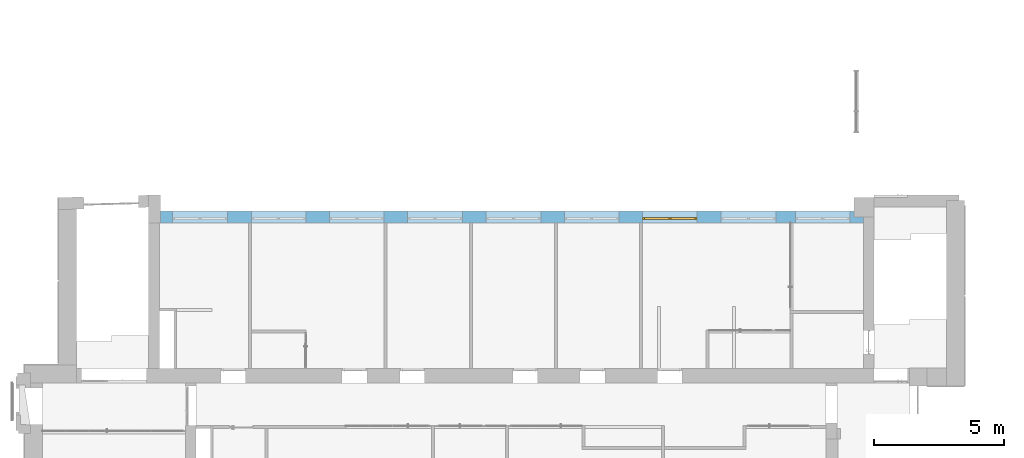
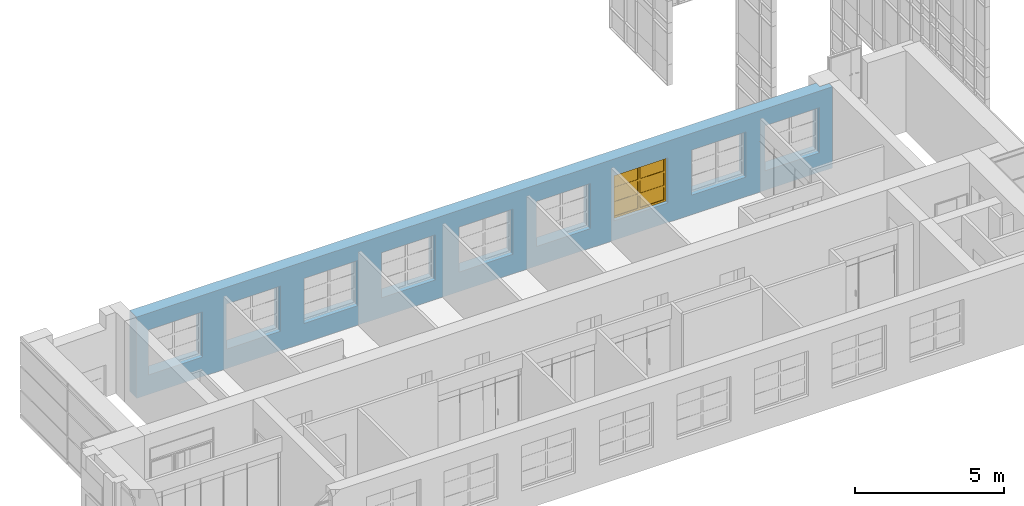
# One storey, part 65 of 73: 1 window, 9 openings, plus 1 element that does not belong to this part.
"""IFC2X3 building model written with IfcOpenShell, lengths in millimetres."""

from ifc_helpers import new_model, entity, si_unit, converted_unit, derived_unit, direction, frame, frame_2d, origin, origin_2d_with_axis, place, context, subcontext, project, spatial, polyline, rectangle, outline, extrude, face_set, surface_model, source, transform, mapped, material, material_list, layer, layer_set, layer_usage, type_object, type_shapes, element, fill, save


model = new_model("IFC2X3")

# Units and contexts
model_context = context("Model", 3, precision=0.01, world=origin(), true_north=direction((6.12303176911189e-17, 1.0)))
body_context = subcontext(model_context, "Body", "Model", "MODEL_VIEW")
ifc_project = project(units=[si_unit("LENGTHUNIT", "METRE", prefix="MILLI"), si_unit("AREAUNIT", "SQUARE_METRE"), si_unit("VOLUMEUNIT", "CUBIC_METRE"), converted_unit("PLANEANGLEUNIT", "DEGREE", entity("IfcRatioMeasure", 0.0174532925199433), si_unit("PLANEANGLEUNIT", "RADIAN"), dimensions=[0, 0, 0, 0, 0, 0, 0]), si_unit("MASSUNIT", "GRAM", prefix="KILO"), derived_unit("MASSDENSITYUNIT", [(si_unit("MASSUNIT", "GRAM", prefix="KILO"), 1), (si_unit("LENGTHUNIT", "METRE"), -3)]), si_unit("TIMEUNIT", "SECOND"), si_unit("FREQUENCYUNIT", "HERTZ"), si_unit("THERMODYNAMICTEMPERATUREUNIT", "DEGREE_CELSIUS"), derived_unit("THERMALTRANSMITTANCEUNIT", [(si_unit("MASSUNIT", "GRAM", prefix="KILO"), 1), (si_unit("THERMODYNAMICTEMPERATUREUNIT", "KELVIN"), -1), (si_unit("TIMEUNIT", "SECOND"), -3)]), derived_unit("VOLUMETRICFLOWRATEUNIT", [(si_unit("LENGTHUNIT", "METRE"), 3), (si_unit("TIMEUNIT", "SECOND"), -1)]), si_unit("ELECTRICCURRENTUNIT", "AMPERE"), si_unit("ELECTRICVOLTAGEUNIT", "VOLT"), si_unit("POWERUNIT", "WATT"), si_unit("FORCEUNIT", "NEWTON", prefix="KILO"), si_unit("ILLUMINANCEUNIT", "LUX"), si_unit("LUMINOUSFLUXUNIT", "LUMEN"), si_unit("LUMINOUSINTENSITYUNIT", "CANDELA"), derived_unit("USERDEFINED", [(si_unit("MASSUNIT", "GRAM", prefix="KILO"), -1), (si_unit("LENGTHUNIT", "METRE"), -2), (si_unit("TIMEUNIT", "SECOND"), 3), (si_unit("LUMINOUSFLUXUNIT", "LUMEN"), 1)]), derived_unit("LINEARVELOCITYUNIT", [(si_unit("LENGTHUNIT", "METRE"), 1), (si_unit("TIMEUNIT", "SECOND"), -1)]), si_unit("PRESSUREUNIT", "PASCAL"), derived_unit("USERDEFINED", [(si_unit("LENGTHUNIT", "METRE"), -2), (si_unit("MASSUNIT", "GRAM", prefix="KILO"), 1), (si_unit("TIMEUNIT", "SECOND"), -2)])], contexts=[model_context])

# Site, building, storey
site_placement = place(None, frame((-151.875543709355, 2715.0, 0.0)))
site = spatial("IfcSite", under=ifc_project, at=site_placement, Name="Surface", CompositionType="ELEMENT")
building_placement = place(site_placement, origin())
building = spatial("IfcBuilding", under=site, at=building_placement, CompositionType="ELEMENT")
storey_placement = place(building_placement, frame((0.0, 0.0, 6730.43000000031)))
storey = spatial("IfcBuildingStorey", under=building, at=storey_placement, Name="3 korrus", CompositionType="ELEMENT", Elevation=6730.43000000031)

# Wall, openings, window
ifc_material_1 = material(Name="Brick, Common")
ifc_layer_1 = layer(ifc_material_1, 440.0)
ifc_material_2 = material(Name="__Kips GN13_tava")
ifc_layer_2 = layer(ifc_material_2, 20.0)
ifc_layer_set = layer_set([ifc_layer_1, ifc_layer_2], Name="Basic Wall:VS-1")
ifc_layer_usage = layer_usage(ifc_layer_set, "AXIS2", "POSITIVE", -230.0)
wall_type = type_object("IfcWallType", Name="Basic Wall:VS-1", PredefinedType="STANDARD", material=ifc_layer_set)
wall_placement = place(storey_placement, frame((31972.6162682, 12380.0, 0.00203353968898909), z_axis=(0.0, 0.0, 1.0), x_axis=(-1.0, 0.0, 0.0)))
wall = element("IfcWallStandardCase", 1, at=wall_placement, inside=storey, type_object=wall_type, material=ifc_layer_usage, Name="SEIN - 005", ObjectType="Basic Wall:VS-1", context=body_context, shape_type="SweptSolid", body=[
    extrude(outline(polyline([(26972.5418693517, -230.0), (26972.5418693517, 230.0), (0.0, 230.0), (0.0, 0.0), (370.0, 0.0), (370.0, -230.0), (26972.5418693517, -230.0)])), origin(), (0.0, 0.0, 1.0), 3329.56796646),
])
opening_1_placement = place(wall_placement, frame((31972.6162682, 12380.0, -0.00203353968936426), z_axis=(0.0, 0.0, 1.0), x_axis=(-1.0, 0.0, 0.0)))
element("IfcOpeningElement", 2, at=opening_1_placement, cuts=wall, Name="SEIN - 005", ObjectType="Opening", context=body_context, shape_type="SweptSolid", body=[
    extrude(rectangle(XDim=1850.0, YDim=2100.0, at=frame_2d((0.0, -5.6843418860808e-13), x_axis=(1.0, 0.0))), frame((6512.84934801, 13077.9, 1725.00203353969), z_axis=(0.0, -1.0, 0.0), x_axis=(0.0, 0.0, 1.0)), (0.0, 0.0, 1.0), 1393.8),
])
opening_2_placement = place(wall_placement, frame((31972.6162682, 12380.0, -0.00203353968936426), z_axis=(0.0, 0.0, 1.0), x_axis=(-1.0, 0.0, 0.0)))
element("IfcOpeningElement", 3, at=opening_2_placement, cuts=wall, Name="SEIN - 005", ObjectType="Opening", context=body_context, shape_type="SweptSolid", body=[
    extrude(rectangle(XDim=1850.0, YDim=2100.0, at=origin_2d_with_axis()), frame((9532.84934801, 13077.9, 1725.00203353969), z_axis=(0.0, -1.0, 0.0), x_axis=(0.0, 0.0, 1.0)), (0.0, 0.0, 1.0), 1393.8),
])
opening_3_placement = place(wall_placement, frame((31972.6162682, 12380.0, -0.00203353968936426), z_axis=(0.0, 0.0, 1.0), x_axis=(-1.0, 0.0, 0.0)))
element("IfcOpeningElement", 4, at=opening_3_placement, cuts=wall, Name="SEIN - 005", ObjectType="Opening", context=body_context, shape_type="SweptSolid", body=[
    extrude(rectangle(XDim=1850.0, YDim=2100.0, at=frame_2d((0.0, -1.02318153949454e-12), x_axis=(1.0, 0.0))), frame((12532.84934801, 13077.9, 1725.00203353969), z_axis=(0.0, -1.0, 0.0), x_axis=(0.0, 0.0, 1.0)), (0.0, 0.0, 1.0), 1393.8),
])
opening_4_placement = place(wall_placement, frame((31972.6162682, 12380.0, -0.00203353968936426), z_axis=(0.0, 0.0, 1.0), x_axis=(-1.0, 0.0, 0.0)))
element("IfcOpeningElement", 5, at=opening_4_placement, cuts=wall, Name="SEIN - 005", ObjectType="Opening", context=body_context, shape_type="SweptSolid", body=[
    extrude(rectangle(XDim=1850.0, YDim=2100.0, at=origin_2d_with_axis()), frame((15532.849348, 13077.9, 1725.00203353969), z_axis=(0.0, -1.0, 0.0), x_axis=(0.0, 0.0, 1.0)), (0.0, 0.0, 1.0), 1393.8),
])
opening_5_placement = place(wall_placement, frame((31972.6162682, 12380.0, -0.00203353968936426), z_axis=(0.0, 0.0, 1.0), x_axis=(-1.0, 0.0, 0.0)))
element("IfcOpeningElement", 6, at=opening_5_placement, cuts=wall, Name="SEIN - 005", ObjectType="Opening", context=body_context, shape_type="SweptSolid", body=[
    extrude(rectangle(XDim=1850.0, YDim=2100.0, at=origin_2d_with_axis()), frame((18542.849348, 13077.9, 1725.00203353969), z_axis=(0.0, -1.0, 0.0), x_axis=(0.0, 0.0, 1.0)), (0.0, 0.0, 1.0), 1393.8),
])
opening_6_placement = place(wall_placement, frame((31972.6162682, 12380.0, -0.00203353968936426), z_axis=(0.0, 0.0, 1.0), x_axis=(-1.0, 0.0, 0.0)))
element("IfcOpeningElement", 7, at=opening_6_placement, cuts=wall, Name="SEIN - 005", ObjectType="Opening", context=body_context, shape_type="SweptSolid", body=[
    extrude(rectangle(XDim=1850.0, YDim=2100.0, at=origin_2d_with_axis()), frame((21543.0530903, 13077.9, 1725.00203353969), z_axis=(0.0, -1.0, 0.0), x_axis=(0.0, 0.0, 1.0)), (0.0, 0.0, 1.0), 1393.8),
])
opening_7_placement = place(wall_placement, frame((31972.6162682, 12380.0, -0.00203353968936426), z_axis=(0.0, 0.0, 1.0), x_axis=(-1.0, 0.0, 0.0)))
opening_7 = element("IfcOpeningElement", 8, at=opening_7_placement, cuts=wall, Name="SEIN - 005", ObjectType="Opening", context=body_context, shape_type="SweptSolid", body=[
    extrude(rectangle(XDim=1850.0, YDim=2100.0, at=origin_2d_with_axis()), frame((24543.0530903, 13077.9, 1725.00203353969), z_axis=(0.0, -1.0, 0.0), x_axis=(0.0, 0.0, 1.0)), (0.0, 0.0, 1.0), 1393.8),
])
opening_8_placement = place(wall_placement, frame((31972.6162682, 12380.0, -0.00203353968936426), z_axis=(0.0, 0.0, 1.0), x_axis=(-1.0, 0.0, 0.0)))
element("IfcOpeningElement", 9, at=opening_8_placement, cuts=wall, Name="SEIN - 005", ObjectType="Opening", context=body_context, shape_type="SweptSolid", body=[
    extrude(rectangle(XDim=1850.0, YDim=2100.0, at=origin_2d_with_axis()), frame((27563.0530903, 13077.9, 1725.00203353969), z_axis=(0.0, -1.0, 0.0), x_axis=(0.0, 0.0, 1.0)), (0.0, 0.0, 1.0), 1393.8),
])
opening_9_placement = place(wall_placement, frame((31972.6162682, 12380.0, -0.00203353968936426), z_axis=(0.0, 0.0, 1.0), x_axis=(-1.0, 0.0, 0.0)))
element("IfcOpeningElement", 10, at=opening_9_placement, cuts=wall, Name="SEIN - 005", ObjectType="Opening", context=body_context, shape_type="SweptSolid", body=[
    extrude(rectangle(XDim=1850.0, YDim=2100.0, at=origin_2d_with_axis()), frame((30412.5729235, 13077.9, 1725.00203353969), z_axis=(0.0, -1.0, 0.0), x_axis=(0.0, 0.0, 1.0)), (0.0, 0.0, 1.0), 1393.8),
])
ifc_material_3 = material(Name="Paint - Titanium White")
ifc_material_4 = material(Name="Paint - Dark Gray")
ifc_material_5 = material(Name="Glass - Clear Fast")
ifc_material_list_1 = material_list([ifc_material_3, ifc_material_4, ifc_material_5])
ifc_material_list_2 = material_list([ifc_material_3, ifc_material_4, ifc_material_5])
window_style = type_object("IfcWindowStyle", Name="Aken_1850x2100", ConstructionType="NOTDEFINED", OperationType="DOUBLE_PANEL_VERTICAL", ParameterTakesPrecedence=False, Sizeable=False, material=ifc_material_list_2)
shared_shape = source(origin(), body_context, "Body", "SurfaceModel", [
    surface_model("IfcFaceBasedSurfaceModel", [(80.0, -665.9, 1770.0), (80.0, -620.9, 1770.0), (0.0, -620.9, 1770.0), (0.0, -665.9, 1770.0), (80.0, -665.9, 80.0), (80.0, -620.9, 80.0), (80.0, -620.9, 1770.0), (80.0, -665.9, 1770.0), (80.0, -620.9, 1770.0), (80.0, -620.9, 80.0), (0.0, -620.9, 80.0), (0.0, -620.9, 1770.0), (0.0, -665.9, 1770.0), (0.0, -620.9, 1770.0), (0.0, -620.9, 80.0), (0.0, -665.9, 80.0), (80.0, -665.9, 1770.0), (0.0, -665.9, 1770.0), (0.0, -665.9, 80.0), (80.0, -665.9, 80.0), (0.0, -665.9, 80.0), (0.0, -620.9, 80.0), (80.0, -620.9, 80.0), (80.0, -665.9, 80.0), (2020.0, -665.9, 80.0), (2020.0, -620.9, 80.0), (2100.0, -620.9, 80.0), (2100.0, -665.9, 80.0), (2020.0, -665.9, 1770.0), (2020.0, -620.9, 1770.0), (2020.0, -620.9, 80.0), (2020.0, -665.9, 80.0), (2020.0, -620.9, 80.0), (2020.0, -620.9, 1770.0), (2100.0, -620.9, 1770.0), (2100.0, -620.9, 80.0), (2100.0, -665.9, 80.0), (2100.0, -620.9, 80.0), (2100.0, -620.9, 1770.0), (2100.0, -665.9, 1770.0), (2020.0, -665.9, 80.0), (2100.0, -665.9, 80.0), (2100.0, -665.9, 1770.0), (2020.0, -665.9, 1770.0), (2100.0, -665.9, 1770.0), (2100.0, -620.9, 1770.0), (2020.0, -620.9, 1770.0), (2020.0, -665.9, 1770.0), (1010.0, -665.9, 80.0), (1010.0, -620.9, 80.0), (1090.0, -620.9, 80.0), (1090.0, -665.9, 80.0), (1010.0, -665.9, 1770.0), (1010.0, -620.9, 1770.0), (1010.0, -620.9, 80.0), (1010.0, -665.9, 80.0), (1010.0, -620.9, 80.0), (1010.0, -620.9, 1770.0), (1090.0, -620.9, 1770.0), (1090.0, -620.9, 80.0), (1090.0, -665.9, 80.0), (1090.0, -620.9, 80.0), (1090.0, -620.9, 1770.0), (1090.0, -665.9, 1770.0), (1010.0, -665.9, 80.0), (1090.0, -665.9, 80.0), (1090.0, -665.9, 1770.0), (1010.0, -665.9, 1770.0), (1090.0, -665.9, 1770.0), (1090.0, -620.9, 1770.0), (1010.0, -620.9, 1770.0), (1010.0, -665.9, 1770.0), (80.0, -665.9, 80.0), (80.0, -620.9, 80.0), (0.0, -620.9, 80.0), (0.0, -665.9, 80.0), (1010.0, -665.9, 80.0), (1010.0, -620.9, 80.0), (80.0, -620.9, 80.0), (80.0, -665.9, 80.0), (80.0, -620.9, 80.0), (1010.0, -620.9, 80.0), (1090.0, -620.9, 80.0), (2020.0, -620.9, 80.0), (2100.0, -620.9, 80.0), (2100.0, -620.9, 0.0), (0.0, -620.9, 0.0), (0.0, -620.9, 80.0), (0.0, -665.9, 80.0), (0.0, -620.9, 80.0), (0.0, -620.9, 0.0), (0.0, -665.9, 0.0), (80.0, -665.9, 80.0), (0.0, -665.9, 80.0), (0.0, -665.9, 0.0), (2100.0, -665.9, 0.0), (2100.0, -665.9, 80.0), (2020.0, -665.9, 80.0), (1090.0, -665.9, 80.0), (1010.0, -665.9, 80.0), (1090.0, -665.9, 80.0), (1090.0, -620.9, 80.0), (1010.0, -620.9, 80.0), (1010.0, -665.9, 80.0), (2020.0, -665.9, 80.0), (2020.0, -620.9, 80.0), (1090.0, -620.9, 80.0), (1090.0, -665.9, 80.0), (2100.0, -665.9, 80.0), (2100.0, -620.9, 80.0), (2020.0, -620.9, 80.0), (2020.0, -665.9, 80.0), (2100.0, -665.9, 0.0), (2100.0, -620.9, 0.0), (2100.0, -620.9, 80.0), (2100.0, -665.9, 80.0), (0.0, -665.9, 0.0), (0.0, -620.9, 0.0), (2100.0, -620.9, 0.0), (2100.0, -665.9, 0.0), (1010.0, -665.9, 1770.0), (1010.0, -620.9, 1770.0), (1090.0, -620.9, 1770.0), (1090.0, -665.9, 1770.0), (80.0, -665.9, 1770.0), (80.0, -620.9, 1770.0), (1010.0, -620.9, 1770.0), (1010.0, -665.9, 1770.0), (1010.0, -620.9, 1770.0), (80.0, -620.9, 1770.0), (0.0, -620.9, 1770.0), (0.0, -620.9, 1850.0), (2100.0, -620.9, 1850.0), (2100.0, -620.9, 1770.0), (2020.0, -620.9, 1770.0), (1090.0, -620.9, 1770.0), (1090.0, -665.9, 1770.0), (1090.0, -620.9, 1770.0), (2020.0, -620.9, 1770.0), (2020.0, -665.9, 1770.0), (1010.0, -665.9, 1770.0), (1090.0, -665.9, 1770.0), (2020.0, -665.9, 1770.0), (2100.0, -665.9, 1770.0), (2100.0, -665.9, 1850.0), (0.0, -665.9, 1850.0), (0.0, -665.9, 1770.0), (80.0, -665.9, 1770.0), (0.0, -665.9, 1770.0), (0.0, -620.9, 1770.0), (80.0, -620.9, 1770.0), (80.0, -665.9, 1770.0), (0.0, -665.9, 1850.0), (0.0, -620.9, 1850.0), (0.0, -620.9, 1770.0), (0.0, -665.9, 1770.0), (2100.0, -665.9, 1850.0), (2100.0, -620.9, 1850.0), (0.0, -620.9, 1850.0), (0.0, -665.9, 1850.0), (2100.0, -665.9, 1770.0), (2100.0, -620.9, 1770.0), (2100.0, -620.9, 1850.0), (2100.0, -665.9, 1850.0), (2020.0, -665.9, 1770.0), (2020.0, -620.9, 1770.0), (2100.0, -620.9, 1770.0), (2100.0, -665.9, 1770.0), (80.0, -640.9, 590.0), (80.0, -630.9, 590.0), (1010.0, -630.9, 590.0), (1010.0, -640.9, 590.0), (80.0, -640.9, 670.0), (80.0, -630.9, 670.0), (80.0, -630.9, 590.0), (80.0, -640.9, 590.0), (80.0, -630.9, 590.0), (80.0, -630.9, 670.0), (1010.0, -630.9, 670.0), (1010.0, -630.9, 590.0), (1010.0, -640.9, 590.0), (1010.0, -630.9, 590.0), (1010.0, -630.9, 670.0), (1010.0, -640.9, 670.0), (80.0, -640.9, 590.0), (1010.0, -640.9, 590.0), (1010.0, -640.9, 670.0), (80.0, -640.9, 670.0), (1010.0, -640.9, 670.0), (1010.0, -630.9, 670.0), (80.0, -630.9, 670.0), (80.0, -640.9, 670.0), (80.0, -640.9, 1180.0), (80.0, -630.9, 1180.0), (1010.0, -630.9, 1180.0), (1010.0, -640.9, 1180.0), (80.0, -640.9, 1260.0), (80.0, -630.9, 1260.0), (80.0, -630.9, 1180.0), (80.0, -640.9, 1180.0), (80.0, -630.9, 1180.0), (80.0, -630.9, 1260.0), (1010.0, -630.9, 1260.0), (1010.0, -630.9, 1180.0), (1010.0, -640.9, 1180.0), (1010.0, -630.9, 1180.0), (1010.0, -630.9, 1260.0), (1010.0, -640.9, 1260.0), (80.0, -640.9, 1180.0), (1010.0, -640.9, 1180.0), (1010.0, -640.9, 1260.0), (80.0, -640.9, 1260.0), (1010.0, -640.9, 1260.0), (1010.0, -630.9, 1260.0), (80.0, -630.9, 1260.0), (80.0, -640.9, 1260.0), (1090.0, -640.9, 590.0), (1090.0, -630.9, 590.0), (2020.0, -630.9, 590.0), (2020.0, -640.9, 590.0), (1090.0, -640.9, 670.0), (1090.0, -630.9, 670.0), (1090.0, -630.9, 590.0), (1090.0, -640.9, 590.0), (1090.0, -630.9, 590.0), (1090.0, -630.9, 670.0), (2020.0, -630.9, 670.0), (2020.0, -630.9, 590.0), (2020.0, -640.9, 590.0), (2020.0, -630.9, 590.0), (2020.0, -630.9, 670.0), (2020.0, -640.9, 670.0), (1090.0, -640.9, 590.0), (2020.0, -640.9, 590.0), (2020.0, -640.9, 670.0), (1090.0, -640.9, 670.0), (2020.0, -640.9, 670.0), (2020.0, -630.9, 670.0), (1090.0, -630.9, 670.0), (1090.0, -640.9, 670.0), (1090.0, -640.9, 1180.0), (1090.0, -630.9, 1180.0), (2020.0, -630.9, 1180.0), (2020.0, -640.9, 1180.0), (1090.0, -640.9, 1260.0), (1090.0, -630.9, 1260.0), (1090.0, -630.9, 1180.0), (1090.0, -640.9, 1180.0), (1090.0, -630.9, 1180.0), (1090.0, -630.9, 1260.0), (2020.0, -630.9, 1260.0), (2020.0, -630.9, 1180.0), (2020.0, -640.9, 1180.0), (2020.0, -630.9, 1180.0), (2020.0, -630.9, 1260.0), (2020.0, -640.9, 1260.0), (1090.0, -640.9, 1180.0), (2020.0, -640.9, 1180.0), (2020.0, -640.9, 1260.0), (1090.0, -640.9, 1260.0), (2020.0, -640.9, 1260.0), (2020.0, -630.9, 1260.0), (1090.0, -630.9, 1260.0), (1090.0, -640.9, 1260.0)], [face_set([[[0, 1, 2, 3]]]), face_set([[[4, 5, 6, 7]]]), face_set([[[8, 9, 10, 11]]]), face_set([[[12, 13, 14, 15]]]), face_set([[[16, 17, 18, 19]]]), face_set([[[20, 21, 22, 23]]]), face_set([[[24, 25, 26, 27]]]), face_set([[[28, 29, 30, 31]]]), face_set([[[32, 33, 34, 35]]]), face_set([[[36, 37, 38, 39]]]), face_set([[[40, 41, 42, 43]]]), face_set([[[44, 45, 46, 47]]]), face_set([[[48, 49, 50, 51]]]), face_set([[[52, 53, 54, 55]]]), face_set([[[56, 57, 58, 59]]]), face_set([[[60, 61, 62, 63]]]), face_set([[[64, 65, 66, 67]]]), face_set([[[68, 69, 70, 71]]]), face_set([[[72, 73, 74, 75]]]), face_set([[[76, 77, 78, 79]]]), face_set([[[80, 81, 82, 83, 84, 85, 86, 87]]]), face_set([[[88, 89, 90, 91]]]), face_set([[[92, 93, 94, 95, 96, 97, 98, 99]]]), face_set([[[100, 101, 102, 103]]]), face_set([[[104, 105, 106, 107]]]), face_set([[[108, 109, 110, 111]]]), face_set([[[112, 113, 114, 115]]]), face_set([[[116, 117, 118, 119]]]), face_set([[[120, 121, 122, 123]]]), face_set([[[124, 125, 126, 127]]]), face_set([[[128, 129, 130, 131, 132, 133, 134, 135]]]), face_set([[[136, 137, 138, 139]]]), face_set([[[140, 141, 142, 143, 144, 145, 146, 147]]]), face_set([[[148, 149, 150, 151]]]), face_set([[[152, 153, 154, 155]]]), face_set([[[156, 157, 158, 159]]]), face_set([[[160, 161, 162, 163]]]), face_set([[[164, 165, 166, 167]]]), face_set([[[168, 169, 170, 171]]]), face_set([[[172, 173, 174, 175]]]), face_set([[[176, 177, 178, 179]]]), face_set([[[180, 181, 182, 183]]]), face_set([[[184, 185, 186, 187]]]), face_set([[[188, 189, 190, 191]]]), face_set([[[192, 193, 194, 195]]]), face_set([[[196, 197, 198, 199]]]), face_set([[[200, 201, 202, 203]]]), face_set([[[204, 205, 206, 207]]]), face_set([[[208, 209, 210, 211]]]), face_set([[[212, 213, 214, 215]]]), face_set([[[216, 217, 218, 219]]]), face_set([[[220, 221, 222, 223]]]), face_set([[[224, 225, 226, 227]]]), face_set([[[228, 229, 230, 231]]]), face_set([[[232, 233, 234, 235]]]), face_set([[[236, 237, 238, 239]]]), face_set([[[240, 241, 242, 243]]]), face_set([[[244, 245, 246, 247]]]), face_set([[[248, 249, 250, 251]]]), face_set([[[252, 253, 254, 255]]]), face_set([[[256, 257, 258, 259]]]), face_set([[[260, 261, 262, 263]]])]),
    surface_model("IfcFaceBasedSurfaceModel", [(80.0, -620.9, 1770.0), (80.0, -595.9, 1770.0), (0.0, -595.9, 1770.0), (0.0, -620.9, 1770.0), (80.0, -620.9, 80.0), (80.0, -595.9, 80.0), (80.0, -595.9, 1770.0), (80.0, -620.9, 1770.0), (80.0, -595.9, 1770.0), (80.0, -595.9, 80.0), (0.0, -595.9, 80.0), (0.0, -595.9, 1770.0), (0.0, -620.9, 1770.0), (0.0, -595.9, 1770.0), (0.0, -595.9, 80.0), (0.0, -620.9, 80.0), (80.0, -620.9, 1770.0), (0.0, -620.9, 1770.0), (0.0, -620.9, 80.0), (80.0, -620.9, 80.0), (0.0, -620.9, 80.0), (0.0, -595.9, 80.0), (80.0, -595.9, 80.0), (80.0, -620.9, 80.0), (2020.0, -620.9, 80.0), (2020.0, -595.9, 80.0), (2100.0, -595.9, 80.0), (2100.0, -620.9, 80.0), (2020.0, -620.9, 1770.0), (2020.0, -595.9, 1770.0), (2020.0, -595.9, 80.0), (2020.0, -620.9, 80.0), (2020.0, -595.9, 80.0), (2020.0, -595.9, 1770.0), (2100.0, -595.9, 1770.0), (2100.0, -595.9, 80.0), (2100.0, -620.9, 80.0), (2100.0, -595.9, 80.0), (2100.0, -595.9, 1770.0), (2100.0, -620.9, 1770.0), (2020.0, -620.9, 80.0), (2100.0, -620.9, 80.0), (2100.0, -620.9, 1770.0), (2020.0, -620.9, 1770.0), (2100.0, -620.9, 1770.0), (2100.0, -595.9, 1770.0), (2020.0, -595.9, 1770.0), (2020.0, -620.9, 1770.0), (1010.0, -620.9, 80.0), (1010.0, -595.9, 80.0), (1090.0, -595.9, 80.0), (1090.0, -620.9, 80.0), (1010.0, -620.9, 1770.0), (1010.0, -595.9, 1770.0), (1010.0, -595.9, 80.0), (1010.0, -620.9, 80.0), (1010.0, -595.9, 80.0), (1010.0, -595.9, 1770.0), (1090.0, -595.9, 1770.0), (1090.0, -595.9, 80.0), (1090.0, -620.9, 80.0), (1090.0, -595.9, 80.0), (1090.0, -595.9, 1770.0), (1090.0, -620.9, 1770.0), (1010.0, -620.9, 80.0), (1090.0, -620.9, 80.0), (1090.0, -620.9, 1770.0), (1010.0, -620.9, 1770.0), (1090.0, -620.9, 1770.0), (1090.0, -595.9, 1770.0), (1010.0, -595.9, 1770.0), (1010.0, -620.9, 1770.0), (80.0, -620.9, 80.0), (80.0, -595.9, 80.0), (0.0, -595.9, 80.0), (0.0, -620.9, 80.0), (1010.0, -620.9, 80.0), (1010.0, -595.9, 80.0), (80.0, -595.9, 80.0), (80.0, -620.9, 80.0), (80.0, -595.9, 80.0), (1010.0, -595.9, 80.0), (1090.0, -595.9, 80.0), (2020.0, -595.9, 80.0), (2100.0, -595.9, 80.0), (2100.0, -595.9, 0.0), (0.0, -595.9, 0.0), (0.0, -595.9, 80.0), (0.0, -620.9, 80.0), (0.0, -595.9, 80.0), (0.0, -595.9, 0.0), (0.0, -620.9, 0.0), (80.0, -620.9, 80.0), (0.0, -620.9, 80.0), (0.0, -620.9, 0.0), (2100.0, -620.9, 0.0), (2100.0, -620.9, 80.0), (2020.0, -620.9, 80.0), (1090.0, -620.9, 80.0), (1010.0, -620.9, 80.0), (1090.0, -620.9, 80.0), (1090.0, -595.9, 80.0), (1010.0, -595.9, 80.0), (1010.0, -620.9, 80.0), (2020.0, -620.9, 80.0), (2020.0, -595.9, 80.0), (1090.0, -595.9, 80.0), (1090.0, -620.9, 80.0), (2100.0, -620.9, 80.0), (2100.0, -595.9, 80.0), (2020.0, -595.9, 80.0), (2020.0, -620.9, 80.0), (2100.0, -620.9, 0.0), (2100.0, -595.9, 0.0), (2100.0, -595.9, 80.0), (2100.0, -620.9, 80.0), (0.0, -620.9, 0.0), (0.0, -595.9, 0.0), (2100.0, -595.9, 0.0), (2100.0, -620.9, 0.0), (1010.0, -620.9, 1770.0), (1010.0, -595.9, 1770.0), (1090.0, -595.9, 1770.0), (1090.0, -620.9, 1770.0), (80.0, -620.9, 1770.0), (80.0, -595.9, 1770.0), (1010.0, -595.9, 1770.0), (1010.0, -620.9, 1770.0), (1010.0, -595.9, 1770.0), (80.0, -595.9, 1770.0), (0.0, -595.9, 1770.0), (0.0, -595.9, 1850.0), (2100.0, -595.9, 1850.0), (2100.0, -595.9, 1770.0), (2020.0, -595.9, 1770.0), (1090.0, -595.9, 1770.0), (1090.0, -620.9, 1770.0), (1090.0, -595.9, 1770.0), (2020.0, -595.9, 1770.0), (2020.0, -620.9, 1770.0), (1010.0, -620.9, 1770.0), (1090.0, -620.9, 1770.0), (2020.0, -620.9, 1770.0), (2100.0, -620.9, 1770.0), (2100.0, -620.9, 1850.0), (0.0, -620.9, 1850.0), (0.0, -620.9, 1770.0), (80.0, -620.9, 1770.0), (0.0, -620.9, 1770.0), (0.0, -595.9, 1770.0), (80.0, -595.9, 1770.0), (80.0, -620.9, 1770.0), (0.0, -620.9, 1850.0), (0.0, -595.9, 1850.0), (0.0, -595.9, 1770.0), (0.0, -620.9, 1770.0), (2100.0, -620.9, 1850.0), (2100.0, -595.9, 1850.0), (0.0, -595.9, 1850.0), (0.0, -620.9, 1850.0), (2100.0, -620.9, 1770.0), (2100.0, -595.9, 1770.0), (2100.0, -595.9, 1850.0), (2100.0, -620.9, 1850.0), (2020.0, -620.9, 1770.0), (2020.0, -595.9, 1770.0), (2100.0, -595.9, 1770.0), (2100.0, -620.9, 1770.0), (80.0, -630.9, 590.0), (80.0, -600.9, 590.0), (1010.0, -600.9, 590.0), (1010.0, -630.9, 590.0), (80.0, -630.9, 670.0), (80.0, -600.9, 670.0), (80.0, -600.9, 590.0), (80.0, -630.9, 590.0), (80.0, -600.9, 590.0), (80.0, -600.9, 670.0), (1010.0, -600.9, 670.0), (1010.0, -600.9, 590.0), (1010.0, -630.9, 590.0), (1010.0, -600.9, 590.0), (1010.0, -600.9, 670.0), (1010.0, -630.9, 670.0), (80.0, -630.9, 590.0), (1010.0, -630.9, 590.0), (1010.0, -630.9, 670.0), (80.0, -630.9, 670.0), (1010.0, -630.9, 670.0), (1010.0, -600.9, 670.0), (80.0, -600.9, 670.0), (80.0, -630.9, 670.0), (80.0, -630.9, 1180.0), (80.0, -600.9, 1180.0), (1010.0, -600.9, 1180.0), (1010.0, -630.9, 1180.0), (80.0, -630.9, 1260.0), (80.0, -600.9, 1260.0), (80.0, -600.9, 1180.0), (80.0, -630.9, 1180.0), (80.0, -600.9, 1180.0), (80.0, -600.9, 1260.0), (1010.0, -600.9, 1260.0), (1010.0, -600.9, 1180.0), (1010.0, -630.9, 1180.0), (1010.0, -600.9, 1180.0), (1010.0, -600.9, 1260.0), (1010.0, -630.9, 1260.0), (80.0, -630.9, 1180.0), (1010.0, -630.9, 1180.0), (1010.0, -630.9, 1260.0), (80.0, -630.9, 1260.0), (1010.0, -630.9, 1260.0), (1010.0, -600.9, 1260.0), (80.0, -600.9, 1260.0), (80.0, -630.9, 1260.0), (1090.0, -630.9, 590.0), (1090.0, -600.9, 590.0), (2020.0, -600.9, 590.0), (2020.0, -630.9, 590.0), (1090.0, -630.9, 670.0), (1090.0, -600.9, 670.0), (1090.0, -600.9, 590.0), (1090.0, -630.9, 590.0), (1090.0, -600.9, 590.0), (1090.0, -600.9, 670.0), (2020.0, -600.9, 670.0), (2020.0, -600.9, 590.0), (2020.0, -630.9, 590.0), (2020.0, -600.9, 590.0), (2020.0, -600.9, 670.0), (2020.0, -630.9, 670.0), (1090.0, -630.9, 590.0), (2020.0, -630.9, 590.0), (2020.0, -630.9, 670.0), (1090.0, -630.9, 670.0), (2020.0, -630.9, 670.0), (2020.0, -600.9, 670.0), (1090.0, -600.9, 670.0), (1090.0, -630.9, 670.0), (1090.0, -630.9, 1180.0), (1090.0, -600.9, 1180.0), (2020.0, -600.9, 1180.0), (2020.0, -630.9, 1180.0), (1090.0, -630.9, 1260.0), (1090.0, -600.9, 1260.0), (1090.0, -600.9, 1180.0), (1090.0, -630.9, 1180.0), (1090.0, -600.9, 1180.0), (1090.0, -600.9, 1260.0), (2020.0, -600.9, 1260.0), (2020.0, -600.9, 1180.0), (2020.0, -630.9, 1180.0), (2020.0, -600.9, 1180.0), (2020.0, -600.9, 1260.0), (2020.0, -630.9, 1260.0), (1090.0, -630.9, 1180.0), (2020.0, -630.9, 1180.0), (2020.0, -630.9, 1260.0), (1090.0, -630.9, 1260.0), (2020.0, -630.9, 1260.0), (2020.0, -600.9, 1260.0), (1090.0, -600.9, 1260.0), (1090.0, -630.9, 1260.0)], [face_set([[[0, 1, 2, 3]]]), face_set([[[4, 5, 6, 7]]]), face_set([[[8, 9, 10, 11]]]), face_set([[[12, 13, 14, 15]]]), face_set([[[16, 17, 18, 19]]]), face_set([[[20, 21, 22, 23]]]), face_set([[[24, 25, 26, 27]]]), face_set([[[28, 29, 30, 31]]]), face_set([[[32, 33, 34, 35]]]), face_set([[[36, 37, 38, 39]]]), face_set([[[40, 41, 42, 43]]]), face_set([[[44, 45, 46, 47]]]), face_set([[[48, 49, 50, 51]]]), face_set([[[52, 53, 54, 55]]]), face_set([[[56, 57, 58, 59]]]), face_set([[[60, 61, 62, 63]]]), face_set([[[64, 65, 66, 67]]]), face_set([[[68, 69, 70, 71]]]), face_set([[[72, 73, 74, 75]]]), face_set([[[76, 77, 78, 79]]]), face_set([[[80, 81, 82, 83, 84, 85, 86, 87]]]), face_set([[[88, 89, 90, 91]]]), face_set([[[92, 93, 94, 95, 96, 97, 98, 99]]]), face_set([[[100, 101, 102, 103]]]), face_set([[[104, 105, 106, 107]]]), face_set([[[108, 109, 110, 111]]]), face_set([[[112, 113, 114, 115]]]), face_set([[[116, 117, 118, 119]]]), face_set([[[120, 121, 122, 123]]]), face_set([[[124, 125, 126, 127]]]), face_set([[[128, 129, 130, 131, 132, 133, 134, 135]]]), face_set([[[136, 137, 138, 139]]]), face_set([[[140, 141, 142, 143, 144, 145, 146, 147]]]), face_set([[[148, 149, 150, 151]]]), face_set([[[152, 153, 154, 155]]]), face_set([[[156, 157, 158, 159]]]), face_set([[[160, 161, 162, 163]]]), face_set([[[164, 165, 166, 167]]]), face_set([[[168, 169, 170, 171]]]), face_set([[[172, 173, 174, 175]]]), face_set([[[176, 177, 178, 179]]]), face_set([[[180, 181, 182, 183]]]), face_set([[[184, 185, 186, 187]]]), face_set([[[188, 189, 190, 191]]]), face_set([[[192, 193, 194, 195]]]), face_set([[[196, 197, 198, 199]]]), face_set([[[200, 201, 202, 203]]]), face_set([[[204, 205, 206, 207]]]), face_set([[[208, 209, 210, 211]]]), face_set([[[212, 213, 214, 215]]]), face_set([[[216, 217, 218, 219]]]), face_set([[[220, 221, 222, 223]]]), face_set([[[224, 225, 226, 227]]]), face_set([[[228, 229, 230, 231]]]), face_set([[[232, 233, 234, 235]]]), face_set([[[236, 237, 238, 239]]]), face_set([[[240, 241, 242, 243]]]), face_set([[[244, 245, 246, 247]]]), face_set([[[248, 249, 250, 251]]]), face_set([[[252, 253, 254, 255]]]), face_set([[[256, 257, 258, 259]]]), face_set([[[260, 261, 262, 263]]])]),
    surface_model("IfcFaceBasedSurfaceModel", [(1010.0, -630.9, 80.0), (1010.0, -630.9, 590.0), (80.0, -630.9, 590.0), (80.0, -630.9, 80.0), (1010.0, -610.9, 80.0), (80.0, -610.9, 80.0), (80.0, -610.9, 590.0), (1010.0, -610.9, 590.0), (1010.0, -630.9, 670.0), (1010.0, -630.9, 1180.0), (80.0, -630.9, 1180.0), (80.0, -630.9, 670.0), (1010.0, -610.9, 670.0), (80.0, -610.9, 670.0), (80.0, -610.9, 1180.0), (1010.0, -610.9, 1180.0), (1010.0, -630.9, 1260.0), (1010.0, -630.9, 1770.0), (80.0, -630.9, 1770.0), (80.0, -630.9, 1260.0), (1010.0, -610.9, 1260.0), (80.0, -610.9, 1260.0), (80.0, -610.9, 1770.0), (1010.0, -610.9, 1770.0), (2020.0, -630.9, 80.0), (2020.0, -630.9, 590.0), (1090.0, -630.9, 590.0), (1090.0, -630.9, 80.0), (2020.0, -610.9, 80.0), (1090.0, -610.9, 80.0), (1090.0, -610.9, 590.0), (2020.0, -610.9, 590.0), (2020.0, -630.9, 670.0), (2020.0, -630.9, 1180.0), (1090.0, -630.9, 1180.0), (1090.0, -630.9, 670.0), (2020.0, -610.9, 670.0), (1090.0, -610.9, 670.0), (1090.0, -610.9, 1180.0), (2020.0, -610.9, 1180.0), (2020.0, -630.9, 1260.0), (2020.0, -630.9, 1770.0), (1090.0, -630.9, 1770.0), (1090.0, -630.9, 1260.0), (2020.0, -610.9, 1260.0), (1090.0, -610.9, 1260.0), (1090.0, -610.9, 1770.0), (2020.0, -610.9, 1770.0)], [face_set([[[0, 1, 2, 3]]]), face_set([[[4, 5, 6, 7]]]), face_set([[[8, 9, 10, 11]]]), face_set([[[12, 13, 14, 15]]]), face_set([[[16, 17, 18, 19]]]), face_set([[[20, 21, 22, 23]]]), face_set([[[24, 25, 26, 27]]]), face_set([[[28, 29, 30, 31]]]), face_set([[[32, 33, 34, 35]]]), face_set([[[36, 37, 38, 39]]]), face_set([[[40, 41, 42, 43]]]), face_set([[[44, 45, 46, 47]]])]),
])
type_shapes(window_style, [shared_shape])
window_placement = place(opening_7_placement, frame((25593.0530903, 11684.1, 800.002033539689), z_axis=(0.0, 0.0, 1.0), x_axis=(-1.0, 0.0, 0.0)))
window = element("IfcWindow", 11, at=window_placement, inside=storey, type_object=window_style, material=ifc_material_list_1, Name="Aken_1850x2100:Aken_1850x2100", ObjectType="Aken_1850x2100", OverallHeight=2100.0, OverallWidth=1850.0, context=body_context, shape_type="MappedRepresentation", body=[
    mapped(shared_shape, transform((0.0, 0.0, 0.0), scale=1.0)),
])
fill(opening_7, window)

save(model, "model.ifc")
